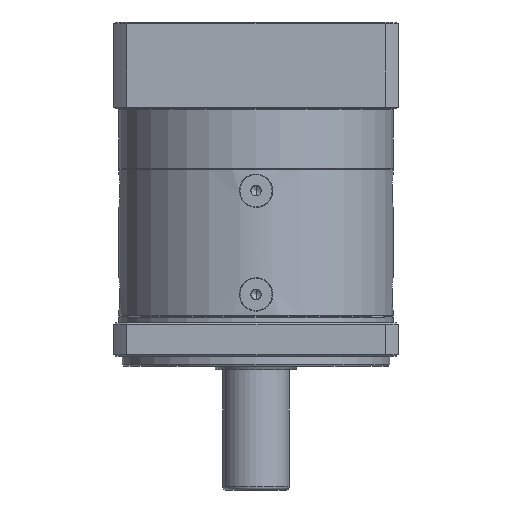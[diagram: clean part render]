
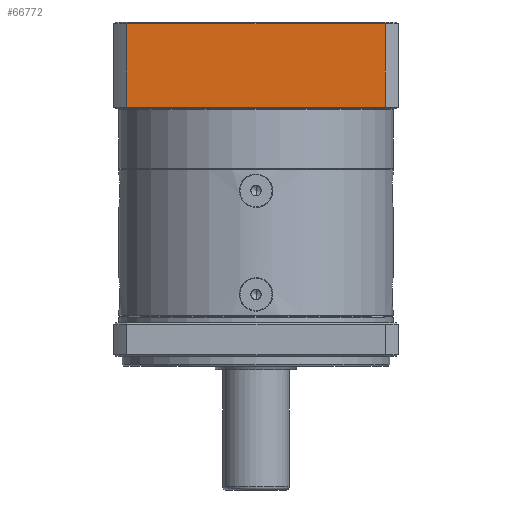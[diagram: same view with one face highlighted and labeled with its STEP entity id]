
A CAD part, front view. The second image highlights one B-rep face of the part: STEP entity #66772.
In plain terms, the highlighted planar face has unit normal (0, -1, 0).
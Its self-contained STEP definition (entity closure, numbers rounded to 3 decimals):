
#2272 = CARTESIAN_POINT ( 'NONE',  ( -7.304, -6.525, -2.285 ) ) ;
#6601 = EDGE_CURVE ( 'NONE', #108453, #22954, #122650, .T. ) ;
#6664 = CARTESIAN_POINT ( 'NONE',  ( -7.304, -6.525, -2.285 ) ) ;
#7266 = VECTOR ( 'NONE', #60075, 1000. ) ;
#11022 = LINE ( 'NONE', #21632, #60920 ) ;
#19918 = FACE_OUTER_BOUND ( 'NONE', #115982, .T. ) ;
#21632 = CARTESIAN_POINT ( 'NONE',  ( -84.764, -6.525, -1.785 ) ) ;
#22954 = VERTEX_POINT ( 'NONE', #68789 ) ;
#28650 = CARTESIAN_POINT ( 'NONE',  ( -84.764, -6.525, -27.285 ) ) ;
#31913 = ORIENTED_EDGE ( 'NONE', *, *, #50792, .F. ) ;
#32327 = DIRECTION ( 'NONE',  ( 1., 0., 0. ) ) ;
#32877 = ORIENTED_EDGE ( 'NONE', *, *, #6601, .T. ) ;
#39422 = VECTOR ( 'NONE', #32327, 1000. ) ;
#45099 = VERTEX_POINT ( 'NONE', #6664 ) ;
#49613 = CARTESIAN_POINT ( 'NONE',  ( -7.304, -6.525, -27.285 ) ) ;
#50792 = EDGE_CURVE ( 'NONE', #45099, #22954, #83942, .T. ) ;
#60075 = DIRECTION ( 'NONE',  ( 1., 0., 0. ) ) ;
#60920 = VECTOR ( 'NONE', #121447, 1000. ) ;
#65448 = CARTESIAN_POINT ( 'NONE',  ( -84.764, -6.525, -2.285 ) ) ;
#66772 = ADVANCED_FACE ( 'NONE', ( #19918 ), #100414, .F. ) ;
#68789 = CARTESIAN_POINT ( 'NONE',  ( -7.304, -6.525, -27.285 ) ) ;
#80828 = DIRECTION ( 'NONE',  ( 0., 1., 0. ) ) ;
#81397 = VERTEX_POINT ( 'NONE', #65448 ) ;
#83942 = LINE ( 'NONE', #98332, #104251 ) ;
#88253 = ORIENTED_EDGE ( 'NONE', *, *, #92920, .F. ) ;
#92920 = EDGE_CURVE ( 'NONE', #81397, #45099, #120502, .T. ) ;
#98332 = CARTESIAN_POINT ( 'NONE',  ( -7.304, -6.525, -1.785 ) ) ;
#100414 = PLANE ( 'NONE',  #107250 ) ;
#103888 = DIRECTION ( 'NONE',  ( -1., 0., 0. ) ) ;
#104251 = VECTOR ( 'NONE', #110156, 1000. ) ;
#106041 = EDGE_CURVE ( 'NONE', #108453, #81397, #11022, .T. ) ;
#107250 = AXIS2_PLACEMENT_3D ( 'NONE', #121798, #80828, #103888 ) ;
#108453 = VERTEX_POINT ( 'NONE', #28650 ) ;
#110156 = DIRECTION ( 'NONE',  ( 0., 0., -1. ) ) ;
#115982 = EDGE_LOOP ( 'NONE', ( #32877, #31913, #88253, #126505 ) ) ;
#120502 = LINE ( 'NONE', #2272, #39422 ) ;
#121447 = DIRECTION ( 'NONE',  ( 0., 0., 1. ) ) ;
#121798 = CARTESIAN_POINT ( 'NONE',  ( -7.304, -6.525, -1.785 ) ) ;
#122650 = LINE ( 'NONE', #49613, #7266 ) ;
#126505 = ORIENTED_EDGE ( 'NONE', *, *, #106041, .F. ) ;
